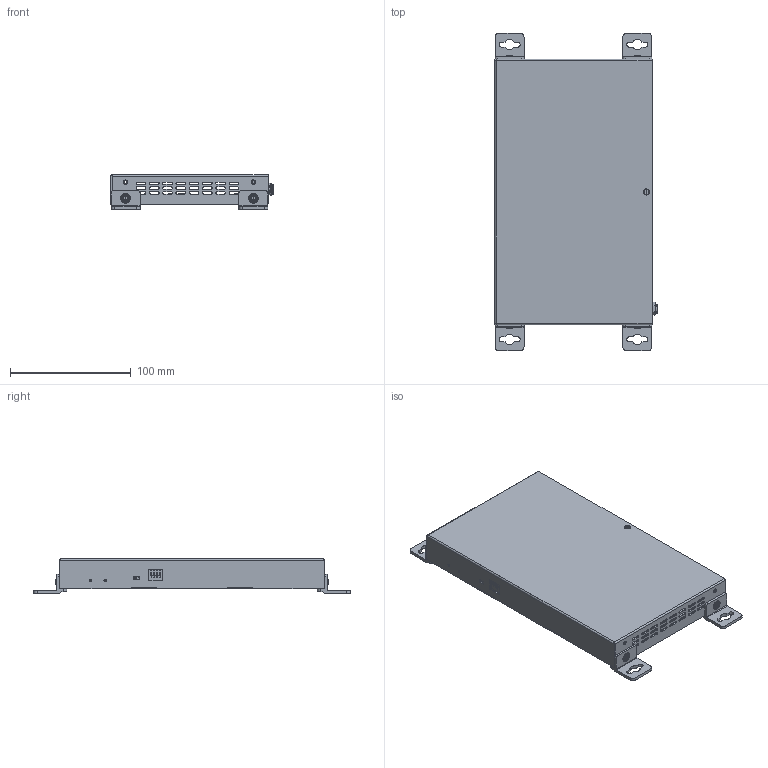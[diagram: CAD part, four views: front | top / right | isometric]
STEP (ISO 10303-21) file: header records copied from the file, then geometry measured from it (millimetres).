
FILE_DESCRIPTION((''),'2;1');
FILE_NAME('IPE5000-003_ASM','2023-05-09T',('Caoheng'),(''),'PRO/ENGINEER BY PARAMETRIC TECHNOLOGY CORPORATION, 2010280','PRO/ENGINEER BY PARAMETRIC TECHNOLOGY CORPORATION, 2010280','');
FILE_SCHEMA(('AUTOMOTIVE_DESIGN_CC2 { 1 2 10303 214 -1 1 5 2 }'));
Products named in the file (17): IPE5000-001-BASE; PCB-IPE5000; XIAO-PCB; IPE5000-000-COVER; PHOENIX3-3_5_H140310FHD000; HDMI_H000019PFS000; SK_J020412D02V00; SK_J0202DPL04B00; M140000M3L503-BTM3-5; M140000M3L701-M3XL6; DC_H0100DC001200; DC_GASKET; DC_NUT; DC_SCREW_ASM; M0400PA015000; DP-25-L5; IPE5000-003_ASM
Assembly tree (30 placements, depth 3):
  IPE5000-003_ASM
    IPE5000-001-BASE
    PCB-IPE5000
    XIAO-PCB
    IPE5000-000-COVER
    PHOENIX3-3_5_H140310FHD000
    HDMI_H000019PFS000  x2
    SK_J020412D02V00
    SK_J0202DPL04B00
    M140000M3L503-BTM3-5  x3
    M140000M3L701-M3XL6  x6
    DC_SCREW_ASM
      DC_H0100DC001200
      DC_GASKET
      DC_NUT
    M0400PA015000  x4
    DP-25-L5  x4
Bounding box: 135.2 x 263 x 28.5 mm (x, y, z)
Volume: 140532.4 mm3; surface area: 231079.1 mm2
Topology: 47 solids, 47 shells, 4781 faces, 13373 edges, 8709 vertices
Faces by surface type: plane 3423, cylinder 1107, bspline 131, torus 56, cone 50, sphere 10, revolution 4
Entity records: 115741 total; most frequent: CARTESIAN_POINT 24822, ORIENTED_EDGE 16918, DIRECTION 16038, EDGE_CURVE 8459, VECTOR 6640, LINE 6640, VERTEX_POINT 5484, AXIS2_PLACEMENT_3D 4697
